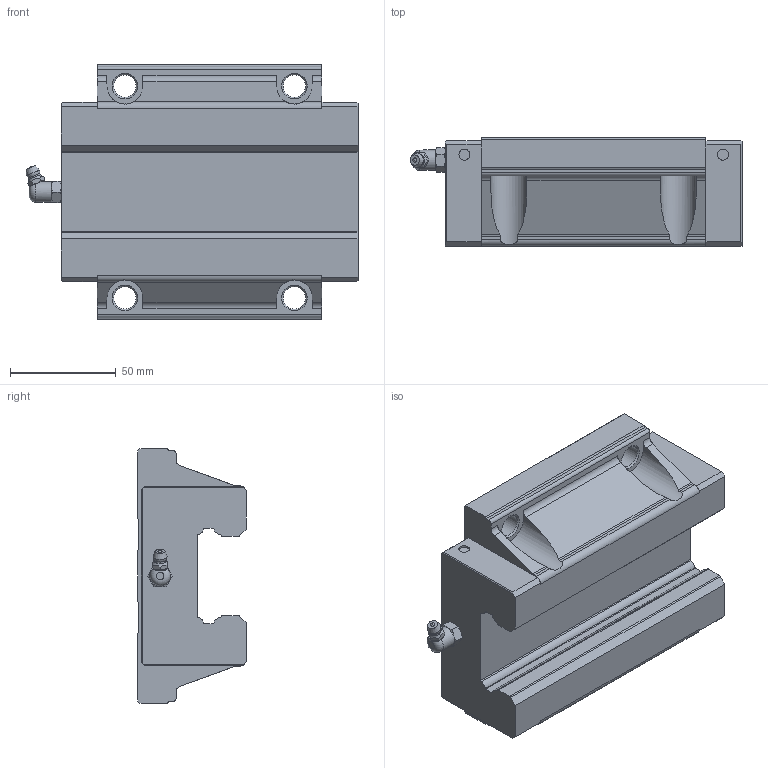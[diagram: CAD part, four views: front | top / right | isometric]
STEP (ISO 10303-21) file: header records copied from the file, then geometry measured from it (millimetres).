
FILE_DESCRIPTION(/* description */ ('STEP AP214'),/* implementation_level */ '2;1');
FILE_NAME(/* name */ 'SHS45C1SS(GK) BLOCK(B-PT1_81)',/* time_stamp */ '2023-05-26T08:30:47+02:00',/* author */ ('License CC BY-ND 4.0'),/* organization */ ('CADENAS'),/* preprocessor_version */ 'ST-DEVELOPER v19.3',/* originating_system */ 'PARTsolutions',/* authorisation */ ' ');
FILE_SCHEMA (('AUTOMOTIVE_DESIGN {1 0 10303 214 3 1 1}'));
Length unit declared in the file: millimetre
Products named in the file (3): SHS45C1SS(GK) BLOCK(B-PT1/81); B-PT1/8-SHS_grease_nipple_joint; SHS45CSSB-PT1/81 Slide25-55
Assembly tree (2 placements, depth 2):
  SHS45C1SS(GK) BLOCK(B-PT1/81)
    B-PT1/8-SHS_grease_nipple_joint
    SHS45CSSB-PT1/81 Slide25-55
Bounding box: 156.7 x 51.1 x 120 mm (x, y, z)
Volume: 552924.1 mm3; surface area: 62726.8 mm2
Topology: 2 solids, 2 shells, 171 faces, 468 edges, 307 vertices
Faces by surface type: plane 99, cylinder 47, cone 20, torus 3, sphere 2
Full cylindrical faces by diameter (mm): 5.2 x4, 9.6 x1, 10.5 x4
Entity records: 5294 total; most frequent: CARTESIAN_POINT 1075, DIRECTION 848, ORIENTED_EDGE 834, EDGE_CURVE 417, AXIS2_PLACEMENT_3D 296, VERTEX_POINT 292, LINE 256, VECTOR 256
